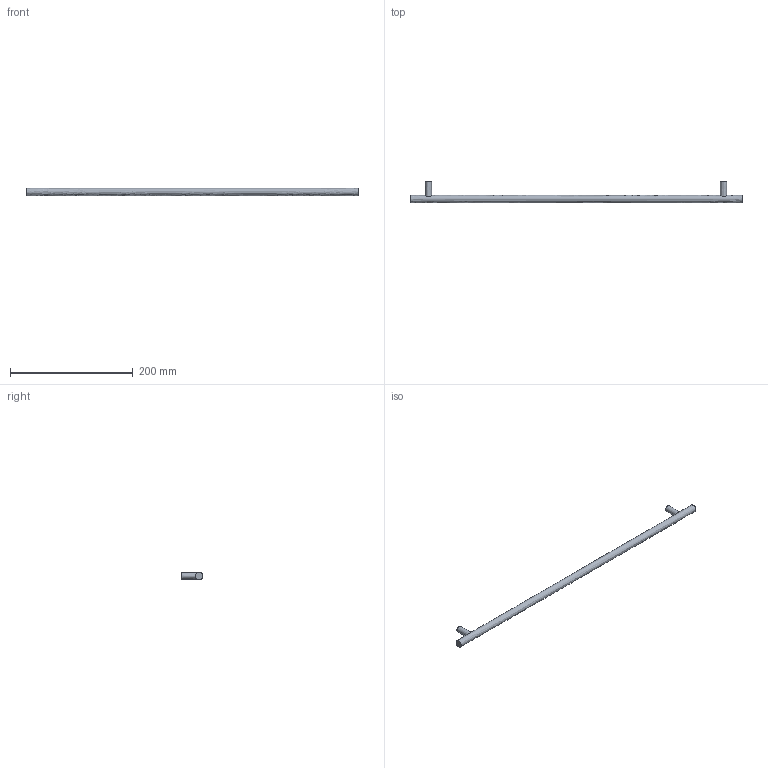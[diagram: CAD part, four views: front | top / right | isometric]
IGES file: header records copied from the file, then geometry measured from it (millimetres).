
Start section: Data from Parasolid IGES Translator 15.0.47, Copyright(c) 2006 Siemens P LM Software. All Rights Reserved.
Global section: file name: 9071027.igs; native system:  By UGS Corp.; preprocessor: XPlus GENERIC/IGES 3.0; author: Noname; organization: Noname; date: 20140122.181334; units: millimetre
Bounding box: 540 x 35 x 12 mm (x, y, z)
Surface area: 22389 mm2 (no closed solid volume)
Topology: 0 solids, 0 shells, 11 faces, 30 edges, 22 vertices
Faces by surface type: extrusion 6, revolution 5
